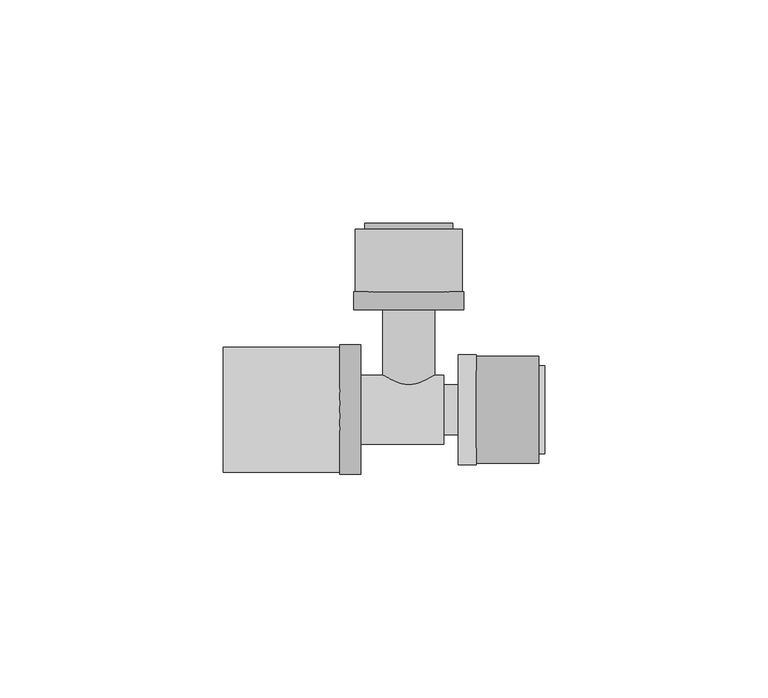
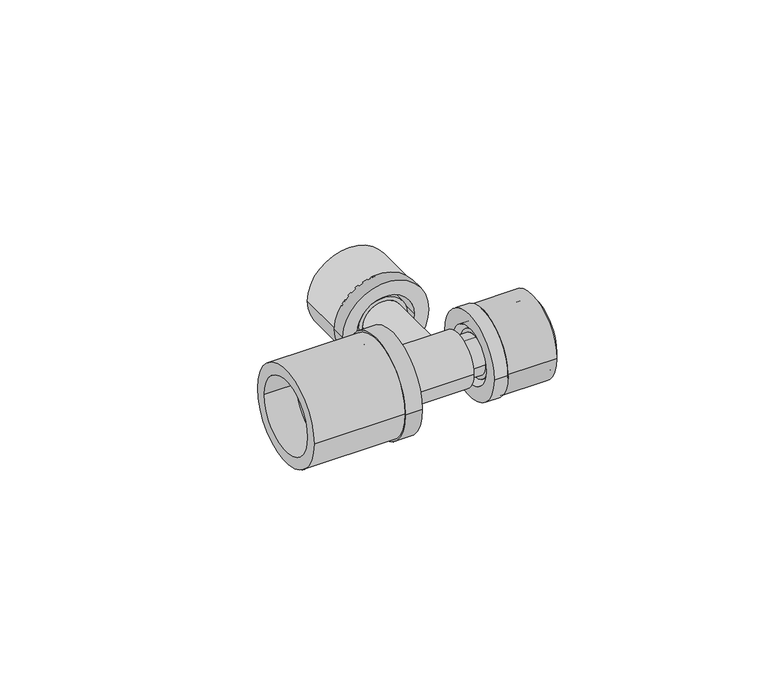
"""IFC4 building model written with IfcOpenShell, lengths in millimetres: pipe fitting geometry, FASTLOC_T-piece_EX+ : FSL T-Piece EX+ AT."""

from ifc_helpers import new_model, si_unit, point, frame, origin, origin_2d, place, context, project, spatial, polyline, circle_curve, trimmed, segment, composite_curve, outline, extrude, source, transform, mapped, element, save
from ifc_brep_helpers import plane_surface, cylinder_surface, revolved_surface, advanced_brep


def pipe_fitting_b316c006(model_context):
    return source(origin(), model_context, "Body", "SolidModel", [
        extrude(outline(composite_curve([segment(trimmed(circle_curve(origin_2d(), 12.0), [point((-12.0, 0.0))], [point((12.0, 0.0))], False, "CARTESIAN"), True, "CONTINUOUS"), segment(trimmed(circle_curve(origin_2d(), 12.0), [point((12.0, 0.0))], [point((-12.0, 0.0))], False, "CARTESIAN"), True, "CONTINUOUS")], self_intersect=False), holes=[composite_curve([segment(trimmed(circle_curve(origin_2d(), 8.85), [point((-8.85, 0.0))], [point((8.85, 0.0))], True, "CARTESIAN"), True, "CONTINUOUS"), segment(trimmed(circle_curve(origin_2d(), 8.85), [point((8.85, 0.0))], [point((-8.85, 0.0))], True, "CARTESIAN"), True, "CONTINUOUS")], self_intersect=False)]), frame((15.1, 0.0, 0.0), z_axis=(1.0, 0.0, 0.0), x_axis=(0.0, 1.0, 0.0)), (0.0, 0.0, 1.0), 14.0),
        advanced_brep(
        [(15.1, 12.35, 0.0), (15.1, -12.35, 0.0), (11.1, -12.35, 0.0), (11.1, 12.35, 0.0), (30.4, 9.85, 0.0), (30.4, -9.85, 0.0), (15.1, -9.85, 0.0), (15.1, 9.85, 0.0), (11.1, 8.15, 0.0), (11.1, -8.15, 0.0), (30.4, -8.15, 0.0), (30.4, 8.15, 0.0)],
        [
            (0, 1, circle_curve(frame((15.1, 0.0, 0.0), z_axis=(-1.0, 0.0, 0.0), x_axis=(0.0, -1.0, 0.0)), 12.35)),
            (1, 2),
            (2, 3, circle_curve(frame((11.1, 0.0, 0.0), z_axis=(1.0, 0.0, 0.0), x_axis=(0.0, -1.0, 0.0)), 12.35)),
            (3, 0),
            (4, 5, circle_curve(frame((30.4, 0.0, 0.0), z_axis=(-1.0, 0.0, 0.0), x_axis=(0.0, -1.0, 0.0)), 9.85)),
            (5, 6),
            (6, 7, circle_curve(frame((15.1, 0.0, 0.0), z_axis=(1.0, 0.0, 0.0), x_axis=(0.0, -1.0, 0.0)), 9.85)),
            (7, 4),
            (8, 9, circle_curve(frame((11.1, 0.0, 0.0), z_axis=(-1.0, 0.0, 0.0), x_axis=(0.0, -1.0, 0.0)), 8.15)),
            (9, 10),
            (10, 11, circle_curve(frame((30.4, 0.0, 0.0), z_axis=(1.0, 0.0, 0.0), x_axis=(0.0, -1.0, 0.0)), 8.15)),
            (11, 8),
            (1, 0, circle_curve(frame((15.1, 0.0, 0.0), z_axis=(-1.0, 0.0, 0.0), x_axis=(0.0, 1.0, 0.0)), 12.35)),
            (3, 2, circle_curve(frame((11.1, 0.0, 0.0), z_axis=(1.0, 0.0, 0.0), x_axis=(0.0, 1.0, 0.0)), 12.35)),
            (6, 7, circle_curve(frame((15.1, 0.0, 0.0), z_axis=(-1.0, 0.0, 0.0), x_axis=(0.0, 1.0, 0.0)), 9.85)),
            (5, 4, circle_curve(frame((30.4, 0.0, 0.0), z_axis=(-1.0, 0.0, 0.0), x_axis=(0.0, 1.0, 0.0)), 9.85)),
            (10, 11, circle_curve(frame((30.4, 0.0, 0.0), z_axis=(-1.0, 0.0, 0.0), x_axis=(0.0, 1.0, 0.0)), 8.15)),
            (9, 8, circle_curve(frame((11.1, 0.0, 0.0), z_axis=(-1.0, 0.0, 0.0), x_axis=(0.0, 1.0, 0.0)), 8.15)),
        ],
        [
            cylinder_surface(frame((11.1, 0.0, 0.0), z_axis=(1.0, 0.0, 0.0), x_axis=(0.0, -1.0, 0.0)), 12.35),
            cylinder_surface(frame((11.1, 0.0, 0.0), z_axis=(1.0, 0.0, 0.0), x_axis=(0.0, -1.0, 0.0)), 9.85),
            revolved_surface(polyline([(30.4, -8.15, 0.0), (11.1, -8.15, 0.0)]), (11.1, 0.0, 0.0), (1.0, 0.0, 0.0)),
            cylinder_surface(frame((11.1, 0.0, 0.0), z_axis=(1.0, 0.0, 0.0), x_axis=(0.0, 1.0, 0.0)), 12.35),
            plane_surface(frame((15.1, 0.0, 0.0), z_axis=(1.0, 0.0, 0.0), x_axis=(0.0, 1.0, 0.0))),
            cylinder_surface(frame((11.1, 0.0, 0.0), z_axis=(1.0, 0.0, 0.0), x_axis=(0.0, 1.0, 0.0)), 9.85),
            plane_surface(frame((30.4, 0.0, 0.0), z_axis=(1.0, 0.0, 0.0), x_axis=(0.0, 1.0, 0.0))),
            revolved_surface(polyline([(30.4, 8.15, 0.0), (11.1, 8.15, 0.0)]), (11.1, 0.0, 0.0), (1.0, 0.0, 0.0)),
            plane_surface(frame((11.1, 0.0, 0.0), z_axis=(-1.0, 0.0, 0.0), x_axis=(0.0, 1.0, 0.0))),
        ],
        [
            (0, [[1, 2, 3, 4]]),
            (1, [[5, 6, 7, 8]]),
            (2, [[9, 10, 11, 12]]),
            (3, [[13, -4, 14, -2]]),
            (4, [[-13, -1], [15, -7]]),
            (5, [[16, -8, -15, -6]]),
            (6, [[-16, -5], [17, -11]]),
            (7, [[18, -12, -17, -10]]),
            (8, [[-14, -3], [-18, -9]]),
        ],
    ),
        extrude(outline(composite_curve([segment(trimmed(circle_curve(origin_2d(), 14.0), [point((14.0, 0.0))], [point((-14.0, 0.0))], False, "CARTESIAN"), True, "CONTINUOUS"), segment(trimmed(circle_curve(origin_2d(), 14.0), [point((-14.0, 0.0))], [point((14.0, 0.0))], False, "CARTESIAN"), True, "CONTINUOUS")], self_intersect=False), holes=[composite_curve([segment(trimmed(circle_curve(origin_2d(), 10.7), [point((10.7, 0.0))], [point((-10.7, 0.0))], True, "CARTESIAN"), True, "CONTINUOUS"), segment(trimmed(circle_curve(origin_2d(), 10.7), [point((-10.7, 0.0))], [point((10.7, 0.0))], True, "CARTESIAN"), True, "CONTINUOUS")], self_intersect=False)]), frame((-41.5, 0.0, 0.0), z_axis=(1.0, 0.0, 0.0), x_axis=(0.0, 1.0, 0.0)), (0.0, 0.0, 1.0), 26.0),
        advanced_brep(
        [(-15.5, -14.5, 0.0), (-15.5, 14.5, 0.0), (-10.8, 14.5, 0.0), (-10.8, -14.5, 0.0), (-32.5, -11.85, 0.0), (-32.5, 11.85, 0.0), (-15.5, 11.85, 0.0), (-15.5, -11.85, 0.0), (-10.8, -10.15, 0.0), (-10.8, 10.15, 0.0), (-32.5, 10.15, 0.0), (-32.5, -10.15, 0.0)],
        [
            (0, 1, circle_curve(frame((-15.5, 0.0, 0.0), z_axis=(1.0, 0.0, 0.0), x_axis=(0.0, 1.0, 0.0)), 14.5)),
            (1, 2),
            (2, 3, circle_curve(frame((-10.8, 0.0, 0.0), z_axis=(-1.0, 0.0, 0.0), x_axis=(0.0, 1.0, 0.0)), 14.5)),
            (3, 0),
            (4, 5, circle_curve(frame((-32.5, 0.0, 0.0), z_axis=(1.0, 0.0, 0.0), x_axis=(0.0, 1.0, 0.0)), 11.85)),
            (5, 6),
            (6, 7, circle_curve(frame((-15.5, 0.0, 0.0), z_axis=(-1.0, 0.0, 0.0), x_axis=(0.0, 1.0, 0.0)), 11.85)),
            (7, 4),
            (8, 9, circle_curve(frame((-10.8, 0.0, 0.0), z_axis=(1.0, 0.0, 0.0), x_axis=(0.0, 1.0, 0.0)), 10.15)),
            (9, 10),
            (10, 11, circle_curve(frame((-32.5, 0.0, 0.0), z_axis=(-1.0, 0.0, 0.0), x_axis=(0.0, 1.0, 0.0)), 10.15)),
            (11, 8),
            (1, 0, circle_curve(frame((-15.5, 0.0, 0.0), z_axis=(1.0, 0.0, 0.0), x_axis=(0.0, -1.0, 0.0)), 14.5)),
            (3, 2, circle_curve(frame((-10.8, 0.0, 0.0), z_axis=(-1.0, 0.0, 0.0), x_axis=(0.0, -1.0, 0.0)), 14.5)),
            (6, 7, circle_curve(frame((-15.5, 0.0, 0.0), z_axis=(1.0, 0.0, 0.0), x_axis=(0.0, -1.0, 0.0)), 11.85)),
            (5, 4, circle_curve(frame((-32.5, 0.0, 0.0), z_axis=(1.0, 0.0, 0.0), x_axis=(0.0, -1.0, 0.0)), 11.85)),
            (10, 11, circle_curve(frame((-32.5, 0.0, 0.0), z_axis=(1.0, 0.0, 0.0), x_axis=(0.0, -1.0, 0.0)), 10.15)),
            (9, 8, circle_curve(frame((-10.8, 0.0, 0.0), z_axis=(1.0, 0.0, 0.0), x_axis=(0.0, -1.0, 0.0)), 10.15)),
        ],
        [
            cylinder_surface(frame((-10.8, 0.0, 0.0), z_axis=(-1.0, 0.0, 0.0), x_axis=(0.0, 1.0, 0.0)), 14.5),
            cylinder_surface(frame((-10.8, 0.0, 0.0), z_axis=(-1.0, 0.0, 0.0), x_axis=(0.0, 1.0, 0.0)), 11.85),
            revolved_surface(polyline([(-32.5, 10.15, 0.0), (-10.8, 10.15, 0.0)]), (-10.8, 0.0, 0.0), (-1.0, 0.0, 0.0)),
            cylinder_surface(frame((-10.8, 0.0, 0.0), z_axis=(-1.0, 0.0, 0.0), x_axis=(0.0, -1.0, 0.0)), 14.5),
            plane_surface(frame((-15.5, 0.0, 0.0), z_axis=(-1.0, 0.0, 0.0), x_axis=(0.0, -1.0, 0.0))),
            cylinder_surface(frame((-10.8, 0.0, 0.0), z_axis=(-1.0, 0.0, 0.0), x_axis=(0.0, -1.0, 0.0)), 11.85),
            plane_surface(frame((-32.5, 0.0, 0.0), z_axis=(-1.0, 0.0, 0.0), x_axis=(0.0, -1.0, 0.0))),
            revolved_surface(polyline([(-32.5, -10.15, 0.0), (-10.8, -10.15, 0.0)]), (-10.8, 0.0, 0.0), (-1.0, 0.0, 0.0)),
            plane_surface(frame((-10.8, 0.0, 0.0), z_axis=(1.0, 0.0, 0.0), x_axis=(0.0, -1.0, 0.0))),
        ],
        [
            (0, [[1, 2, 3, 4]]),
            (1, [[5, 6, 7, 8]]),
            (2, [[9, 10, 11, 12]]),
            (3, [[13, -4, 14, -2]]),
            (4, [[-13, -1], [15, -7]]),
            (5, [[16, -8, -15, -6]]),
            (6, [[-16, -5], [17, -11]]),
            (7, [[18, -12, -17, -10]]),
            (8, [[-14, -3], [-18, -9]]),
        ],
    ),
        extrude(outline(composite_curve([segment(trimmed(circle_curve(origin_2d(), 12.0), [point((0.0, 12.0))], [point((0.0, -12.0))], False, "CARTESIAN"), True, "CONTINUOUS"), segment(trimmed(circle_curve(origin_2d(), 12.0), [point((0.0, -12.0))], [point((0.0, 12.0))], False, "CARTESIAN"), True, "CONTINUOUS")], self_intersect=False), holes=[composite_curve([segment(trimmed(circle_curve(origin_2d(), 8.85), [point((0.0, 8.85))], [point((0.0, -8.85))], True, "CARTESIAN"), True, "CONTINUOUS"), segment(trimmed(circle_curve(origin_2d(), 8.85), [point((0.0, -8.85))], [point((0.0, 8.85))], True, "CARTESIAN"), True, "CONTINUOUS")], self_intersect=False)]), frame((0.0, 26.4, 0.0), z_axis=(0.0, 1.0, 0.0), x_axis=(0.0, 0.0, 1.0)), (0.0, 0.0, 1.0), 14.0),
        advanced_brep(
        [(-12.35, 26.4, 0.0), (12.35, 26.4, 0.0), (12.35, 22.4, 0.0), (-12.35, 22.4, 0.0), (-9.85, 41.7, 0.0), (9.85, 41.7, 0.0), (9.85, 26.4, 0.0), (-9.85, 26.4, 0.0), (-8.15, 22.4, 0.0), (8.15, 22.4, 0.0), (8.15, 41.7, 0.0), (-8.15, 41.7, 0.0)],
        [
            (0, 1, circle_curve(frame((0.0, 26.4, 0.0), z_axis=(0.0, -1.0, 0.0), x_axis=(1.0, 0.0, 0.0)), 12.35)),
            (1, 2),
            (2, 3, circle_curve(frame((0.0, 22.4, 0.0), z_axis=(0.0, 1.0, 0.0), x_axis=(1.0, 0.0, 0.0)), 12.35)),
            (3, 0),
            (4, 5, circle_curve(frame((0.0, 41.7, 0.0), z_axis=(0.0, -1.0, 0.0), x_axis=(1.0, 0.0, 0.0)), 9.85)),
            (5, 6),
            (6, 7, circle_curve(frame((0.0, 26.4, 0.0), z_axis=(0.0, 1.0, 0.0), x_axis=(1.0, 0.0, 0.0)), 9.85)),
            (7, 4),
            (8, 9, circle_curve(frame((0.0, 22.4, 0.0), z_axis=(0.0, -1.0, 0.0), x_axis=(1.0, 0.0, 0.0)), 8.15)),
            (9, 10),
            (10, 11, circle_curve(frame((0.0, 41.7, 0.0), z_axis=(0.0, 1.0, 0.0), x_axis=(1.0, 0.0, 0.0)), 8.15)),
            (11, 8),
            (1, 0, circle_curve(frame((0.0, 26.4, 0.0), z_axis=(0.0, -1.0, 0.0), x_axis=(-1.0, 0.0, 0.0)), 12.35)),
            (3, 2, circle_curve(frame((0.0, 22.4, 0.0), z_axis=(0.0, 1.0, 0.0), x_axis=(-1.0, 0.0, 0.0)), 12.35)),
            (6, 7, circle_curve(frame((0.0, 26.4, 0.0), z_axis=(0.0, -1.0, 0.0), x_axis=(-1.0, 0.0, 0.0)), 9.85)),
            (5, 4, circle_curve(frame((0.0, 41.7, 0.0), z_axis=(0.0, -1.0, 0.0), x_axis=(-1.0, 0.0, 0.0)), 9.85)),
            (10, 11, circle_curve(frame((0.0, 41.7, 0.0), z_axis=(0.0, -1.0, 0.0), x_axis=(-1.0, 0.0, 0.0)), 8.15)),
            (9, 8, circle_curve(frame((0.0, 22.4, 0.0), z_axis=(0.0, -1.0, 0.0), x_axis=(-1.0, 0.0, 0.0)), 8.15)),
        ],
        [
            cylinder_surface(frame((0.0, 22.4, 0.0), z_axis=(0.0, 1.0, 0.0), x_axis=(1.0, 0.0, 0.0)), 12.35),
            cylinder_surface(frame((0.0, 22.4, 0.0), z_axis=(0.0, 1.0, 0.0), x_axis=(1.0, 0.0, 0.0)), 9.85),
            revolved_surface(polyline([(8.15, 41.7, 0.0), (8.15, 22.4, 0.0)]), (0.0, 22.4, 0.0), (0.0, 1.0, 0.0)),
            cylinder_surface(frame((0.0, 22.4, 0.0), z_axis=(0.0, 1.0, 0.0), x_axis=(-1.0, 0.0, 0.0)), 12.35),
            plane_surface(frame((0.0, 26.4, 0.0), z_axis=(0.0, 1.0, 0.0), x_axis=(-1.0, 0.0, 0.0))),
            cylinder_surface(frame((0.0, 22.4, 0.0), z_axis=(0.0, 1.0, 0.0), x_axis=(-1.0, 0.0, 0.0)), 9.85),
            plane_surface(frame((0.0, 41.7, 0.0), z_axis=(0.0, 1.0, 0.0), x_axis=(-1.0, 0.0, 0.0))),
            revolved_surface(polyline([(-8.15, 41.7, 0.0), (-8.15, 22.4, 0.0)]), (0.0, 22.4, 0.0), (0.0, 1.0, 0.0)),
            plane_surface(frame((0.0, 22.4, 0.0), z_axis=(0.0, -1.0, 0.0), x_axis=(-1.0, 0.0, 0.0))),
        ],
        [
            (0, [[1, 2, 3, 4]]),
            (1, [[5, 6, 7, 8]]),
            (2, [[9, 10, 11, 12]]),
            (3, [[13, -4, 14, -2]]),
            (4, [[-13, -1], [15, -7]]),
            (5, [[16, -8, -15, -6]]),
            (6, [[-16, -5], [17, -11]]),
            (7, [[18, -12, -17, -10]]),
            (8, [[-14, -3], [-18, -9]]),
        ],
    ),
        advanced_brep(
        [(12.39, 5.6, 0.0), (12.39, -5.6, 0.0), (7.85, -5.6, 0.0), (7.85, 5.6, 0.0), (15.1, 6.7, 0.0), (15.1, -6.7, 0.0), (12.39, -6.7, 0.0), (12.39, 6.7, 0.0), (30.1, 5.6, 0.0), (30.1, -5.6, 0.0), (15.1, -5.6, 0.0), (15.1, 5.6, 0.0), (6.0, 3.75, 0.0), (6.0, -3.75, 0.0), (30.1, -3.75, 0.0), (30.1, 3.75, 0.0), (-32.9, 5.75, 0.0), (-32.9, -5.75, 0.0), (6.0, -5.75, 0.0), (6.0, 5.75, 0.0), (-15.5, 7.75, 0.0), (-15.5, -7.75, 0.0), (-32.9, -7.75, 0.0), (-32.9, 7.75, 0.0), (-12.83, 8.8, 0.0), (-12.83, -8.8, 0.0), (-15.5, -8.8, 0.0), (-15.5, 8.8, 0.0), (7.85, 7.75, 0.0), (7.85, -7.75, 0.0), (-12.83, -7.75, 0.0), (-12.83, 7.75, 0.0)],
        [
            (0, 1, circle_curve(frame((12.39, 0.0, 0.0), z_axis=(-1.0, 0.0, 0.0), x_axis=(0.0, -1.0, 0.0)), 5.6)),
            (1, 2),
            (2, 3, circle_curve(frame((7.85, 0.0, 0.0), z_axis=(1.0, 0.0, 0.0), x_axis=(0.0, -1.0, 0.0)), 5.6)),
            (3, 0),
            (4, 5, circle_curve(frame((15.1, 0.0, 0.0), z_axis=(-1.0, 0.0, 0.0), x_axis=(0.0, -1.0, 0.0)), 6.7)),
            (5, 6),
            (6, 7, circle_curve(frame((12.39, 0.0, 0.0), z_axis=(1.0, 0.0, 0.0), x_axis=(0.0, -1.0, 0.0)), 6.7)),
            (7, 4),
            (8, 9, circle_curve(frame((30.1, 0.0, 0.0), z_axis=(-1.0, 0.0, 0.0), x_axis=(0.0, -1.0, 0.0)), 5.6)),
            (9, 10),
            (10, 11, circle_curve(frame((15.1, 0.0, 0.0), z_axis=(1.0, 0.0, 0.0), x_axis=(0.0, -1.0, 0.0)), 5.6)),
            (11, 8),
            (12, 13, circle_curve(frame((6.0, 0.0, 0.0), z_axis=(-1.0, 0.0, 0.0), x_axis=(0.0, -1.0, 0.0)), 3.75)),
            (13, 14),
            (14, 15, circle_curve(frame((30.1, 0.0, 0.0), z_axis=(1.0, 0.0, 0.0), x_axis=(0.0, -1.0, 0.0)), 3.75)),
            (15, 12),
            (16, 17, circle_curve(frame((-32.9, 0.0, 0.0), z_axis=(-1.0, 0.0, 0.0), x_axis=(0.0, -1.0, 0.0)), 5.75)),
            (17, 18),
            (18, 19, circle_curve(frame((6.0, 0.0, 0.0), z_axis=(1.0, 0.0, 0.0), x_axis=(0.0, -1.0, 0.0)), 5.75)),
            (19, 16),
            (20, 21, circle_curve(frame((-15.5, 0.0, 0.0), z_axis=(-1.0, 0.0, 0.0), x_axis=(0.0, -1.0, 0.0)), 7.75)),
            (21, 22),
            (22, 23, circle_curve(frame((-32.9, 0.0, 0.0), z_axis=(1.0, 0.0, 0.0), x_axis=(0.0, -1.0, 0.0)), 7.75)),
            (23, 20),
            (24, 25, circle_curve(frame((-12.83, 0.0, 0.0), z_axis=(-1.0, 0.0, 0.0), x_axis=(0.0, -1.0, 0.0)), 8.8)),
            (25, 26),
            (26, 27, circle_curve(frame((-15.5, 0.0, 0.0), z_axis=(1.0, 0.0, 0.0), x_axis=(0.0, -1.0, 0.0)), 8.8)),
            (27, 24),
            (28, 29, circle_curve(frame((7.85, 0.0, 0.0), z_axis=(-1.0, 0.0, 0.0), x_axis=(0.0, -1.0, 0.0)), 7.75)),
            (29, 30),
            (30, 31, circle_curve(frame((-12.83, 0.0, 0.0), z_axis=(1.0, 0.0, 0.0), x_axis=(0.0, -1.0, 0.0)), 7.75)),
            (31, 28),
            (28, 29, circle_curve(frame((7.85, 0.0, 0.0), z_axis=(1.0, 0.0, 0.0), x_axis=(0.0, 1.0, 0.0)), 7.75)),
            (2, 3, circle_curve(frame((7.85, 0.0, 0.0), z_axis=(-1.0, 0.0, 0.0), x_axis=(0.0, 1.0, 0.0)), 5.6)),
            (1, 0, circle_curve(frame((12.39, 0.0, 0.0), z_axis=(-1.0, 0.0, 0.0), x_axis=(0.0, 1.0, 0.0)), 5.6)),
            (6, 7, circle_curve(frame((12.39, 0.0, 0.0), z_axis=(-1.0, 0.0, 0.0), x_axis=(0.0, 1.0, 0.0)), 6.7)),
            (5, 4, circle_curve(frame((15.1, 0.0, 0.0), z_axis=(-1.0, 0.0, 0.0), x_axis=(0.0, 1.0, 0.0)), 6.7)),
            (10, 11, circle_curve(frame((15.1, 0.0, 0.0), z_axis=(-1.0, 0.0, 0.0), x_axis=(0.0, 1.0, 0.0)), 5.6)),
            (9, 8, circle_curve(frame((30.1, 0.0, 0.0), z_axis=(-1.0, 0.0, 0.0), x_axis=(0.0, 1.0, 0.0)), 5.6)),
            (14, 15, circle_curve(frame((30.1, 0.0, 0.0), z_axis=(-1.0, 0.0, 0.0), x_axis=(0.0, 1.0, 0.0)), 3.75)),
            (13, 12, circle_curve(frame((6.0, 0.0, 0.0), z_axis=(-1.0, 0.0, 0.0), x_axis=(0.0, 1.0, 0.0)), 3.75)),
            (18, 19, circle_curve(frame((6.0, 0.0, 0.0), z_axis=(-1.0, 0.0, 0.0), x_axis=(0.0, 1.0, 0.0)), 5.75)),
            (17, 16, circle_curve(frame((-32.9, 0.0, 0.0), z_axis=(-1.0, 0.0, 0.0), x_axis=(0.0, 1.0, 0.0)), 5.75)),
            (22, 23, circle_curve(frame((-32.9, 0.0, 0.0), z_axis=(-1.0, 0.0, 0.0), x_axis=(0.0, 1.0, 0.0)), 7.75)),
            (21, 20, circle_curve(frame((-15.5, 0.0, 0.0), z_axis=(-1.0, 0.0, 0.0), x_axis=(0.0, 1.0, 0.0)), 7.75)),
            (26, 27, circle_curve(frame((-15.5, 0.0, 0.0), z_axis=(-1.0, 0.0, 0.0), x_axis=(0.0, 1.0, 0.0)), 8.8)),
            (25, 24, circle_curve(frame((-12.83, 0.0, 0.0), z_axis=(-1.0, 0.0, 0.0), x_axis=(0.0, 1.0, 0.0)), 8.8)),
            (30, 31, circle_curve(frame((-12.83, 0.0, 0.0), z_axis=(-1.0, 0.0, 0.0), x_axis=(0.0, 1.0, 0.0)), 7.75)),
        ],
        [
            cylinder_surface(frame((0.0, 0.0, 0.0), z_axis=(1.0, 0.0, 0.0), x_axis=(0.0, -1.0, 0.0)), 5.6),
            cylinder_surface(frame((0.0, 0.0, 0.0), z_axis=(1.0, 0.0, 0.0), x_axis=(0.0, -1.0, 0.0)), 6.7),
            revolved_surface(polyline([(30.1, -3.75, 0.0), (6.0, -3.75, 0.0)]), (0.0, 0.0, 0.0), (1.0, 0.0, 0.0)),
            revolved_surface(polyline([(6.0, -5.75, 0.0), (-32.9, -5.75, 0.0)]), (0.0, 0.0, 0.0), (1.0, 0.0, 0.0)),
            cylinder_surface(frame((0.0, 0.0, 0.0), z_axis=(1.0, 0.0, 0.0), x_axis=(0.0, -1.0, 0.0)), 7.75),
            cylinder_surface(frame((0.0, 0.0, 0.0), z_axis=(1.0, 0.0, 0.0), x_axis=(0.0, -1.0, 0.0)), 8.8),
            plane_surface(frame((7.85, 0.0, 0.0), z_axis=(1.0, 0.0, 0.0), x_axis=(0.0, 1.0, 0.0))),
            cylinder_surface(frame((0.0, 0.0, 0.0), z_axis=(1.0, 0.0, 0.0), x_axis=(0.0, 1.0, 0.0)), 5.6),
            plane_surface(frame((12.39, 0.0, 0.0), z_axis=(-1.0, 0.0, 0.0), x_axis=(0.0, 1.0, 0.0))),
            cylinder_surface(frame((0.0, 0.0, 0.0), z_axis=(1.0, 0.0, 0.0), x_axis=(0.0, 1.0, 0.0)), 6.7),
            plane_surface(frame((15.1, 0.0, 0.0), z_axis=(1.0, 0.0, 0.0), x_axis=(0.0, 1.0, 0.0))),
            plane_surface(frame((30.1, 0.0, 0.0), z_axis=(1.0, 0.0, 0.0), x_axis=(0.0, 1.0, 0.0))),
            revolved_surface(polyline([(30.1, 3.75, 0.0), (6.0, 3.75, 0.0)]), (0.0, 0.0, 0.0), (1.0, 0.0, 0.0)),
            plane_surface(frame((6.0, 0.0, 0.0), z_axis=(-1.0, 0.0, 0.0), x_axis=(0.0, 1.0, 0.0))),
            revolved_surface(polyline([(6.0, 5.75, 0.0), (-32.9, 5.75, 0.0)]), (0.0, 0.0, 0.0), (1.0, 0.0, 0.0)),
            plane_surface(frame((-32.9, 0.0, 0.0), z_axis=(-1.0, 0.0, 0.0), x_axis=(0.0, 1.0, 0.0))),
            cylinder_surface(frame((0.0, 0.0, 0.0), z_axis=(1.0, 0.0, 0.0), x_axis=(0.0, 1.0, 0.0)), 7.75),
            plane_surface(frame((-15.5, 0.0, 0.0), z_axis=(-1.0, 0.0, 0.0), x_axis=(0.0, 1.0, 0.0))),
            cylinder_surface(frame((0.0, 0.0, 0.0), z_axis=(1.0, 0.0, 0.0), x_axis=(0.0, 1.0, 0.0)), 8.8),
            plane_surface(frame((-12.83, 0.0, 0.0), z_axis=(1.0, 0.0, 0.0), x_axis=(0.0, 1.0, 0.0))),
        ],
        [
            (0, [[1, 2, 3, 4]]),
            (1, [[5, 6, 7, 8]]),
            (0, [[9, 10, 11, 12]]),
            (2, [[13, 14, 15, 16]]),
            (3, [[17, 18, 19, 20]]),
            (4, [[21, 22, 23, 24]]),
            (5, [[25, 26, 27, 28]]),
            (4, [[29, 30, 31, 32]]),
            (6, [[33, -29], [34, -3]]),
            (7, [[35, -4, -34, -2]]),
            (8, [[36, -7], [-35, -1]]),
            (9, [[37, -8, -36, -6]]),
            (10, [[-37, -5], [38, -11]]),
            (7, [[39, -12, -38, -10]]),
            (11, [[-39, -9], [40, -15]]),
            (12, [[41, -16, -40, -14]]),
            (13, [[42, -19], [-41, -13]]),
            (14, [[43, -20, -42, -18]]),
            (15, [[44, -23], [-43, -17]]),
            (16, [[45, -24, -44, -22]]),
            (17, [[46, -27], [-45, -21]]),
            (18, [[47, -28, -46, -26]]),
            (19, [[-47, -25], [48, -31]]),
            (16, [[-33, -32, -48, -30]]),
        ],
    ),
        advanced_brep(
        [(3.95, 41.4, 0.0), (-3.95, 41.4, 0.0), (-3.95, 0.0, 0.0), (3.95, 0.0, 0.0), (5.8, 0.0, 0.0), (-5.8, 0.0, 0.0), (-5.8, 23.69, 0.0), (5.8, 23.69, 0.0), (6.9, 23.69, 0.0), (-6.9, 23.69, 0.0), (-6.9, 26.4, 0.0), (6.9, 26.4, 0.0), (5.8, 26.4, 0.0), (-5.8, 26.4, 0.0), (-5.8, 41.4, 0.0), (5.8, 41.4, 0.0)],
        [
            (0, 1, circle_curve(frame((0.0, 41.4, 0.0), z_axis=(0.0, 1.0, 0.0), x_axis=(-1.0, 0.0, 0.0)), 3.95)),
            (1, 2),
            (2, 3, circle_curve(frame((0.0, 0.0, 0.0), z_axis=(0.0, -1.0, 0.0), x_axis=(-1.0, 0.0, 0.0)), 3.95)),
            (3, 0),
            (4, 5, circle_curve(frame((0.0, 0.0, 0.0), z_axis=(0.0, 1.0, 0.0), x_axis=(-1.0, 0.0, 0.0)), 5.8)),
            (5, 6),
            (6, 7, circle_curve(frame((0.0, 23.69, 0.0), z_axis=(0.0, -1.0, 0.0), x_axis=(-1.0, 0.0, 0.0)), 5.8)),
            (7, 4),
            (8, 9, circle_curve(frame((0.0, 23.69, 0.0), z_axis=(0.0, 1.0, 0.0), x_axis=(-1.0, 0.0, 0.0)), 6.9)),
            (9, 10),
            (10, 11, circle_curve(frame((0.0, 26.4, 0.0), z_axis=(0.0, -1.0, 0.0), x_axis=(-1.0, 0.0, 0.0)), 6.9)),
            (11, 8),
            (12, 13, circle_curve(frame((0.0, 26.4, 0.0), z_axis=(0.0, 1.0, 0.0), x_axis=(-1.0, 0.0, 0.0)), 5.8)),
            (13, 14),
            (14, 15, circle_curve(frame((0.0, 41.4, 0.0), z_axis=(0.0, -1.0, 0.0), x_axis=(-1.0, 0.0, 0.0)), 5.8)),
            (15, 12),
            (1, 0, circle_curve(frame((0.0, 41.4, 0.0), z_axis=(0.0, 1.0, 0.0), x_axis=(1.0, 0.0, 0.0)), 3.95)),
            (3, 2, circle_curve(frame((0.0, 0.0, 0.0), z_axis=(0.0, -1.0, 0.0), x_axis=(1.0, 0.0, 0.0)), 3.95)),
            (4, 5, circle_curve(frame((0.0, 0.0, 0.0), z_axis=(0.0, -1.0, 0.0), x_axis=(1.0, 0.0, 0.0)), 5.8)),
            (7, 6, circle_curve(frame((0.0, 23.69, 0.0), z_axis=(0.0, -1.0, 0.0), x_axis=(1.0, 0.0, 0.0)), 5.8)),
            (8, 9, circle_curve(frame((0.0, 23.69, 0.0), z_axis=(0.0, -1.0, 0.0), x_axis=(1.0, 0.0, 0.0)), 6.9)),
            (11, 10, circle_curve(frame((0.0, 26.4, 0.0), z_axis=(0.0, -1.0, 0.0), x_axis=(1.0, 0.0, 0.0)), 6.9)),
            (12, 13, circle_curve(frame((0.0, 26.4, 0.0), z_axis=(0.0, -1.0, 0.0), x_axis=(1.0, 0.0, 0.0)), 5.8)),
            (15, 14, circle_curve(frame((0.0, 41.4, 0.0), z_axis=(0.0, -1.0, 0.0), x_axis=(1.0, 0.0, 0.0)), 5.8)),
        ],
        [
            revolved_surface(polyline([(-3.95, 0.0, 0.0), (-3.95, 41.4, 0.0)]), (0.0, 0.0, 0.0), (0.0, -1.0, 0.0)),
            cylinder_surface(frame((0.0, 0.0, 0.0), z_axis=(0.0, -1.0, 0.0), x_axis=(-1.0, 0.0, 0.0)), 5.8),
            cylinder_surface(frame((0.0, 0.0, 0.0), z_axis=(0.0, -1.0, 0.0), x_axis=(-1.0, 0.0, 0.0)), 6.9),
            revolved_surface(polyline([(3.95, 0.0, 0.0), (3.95, 41.4, 0.0)]), (0.0, 0.0, 0.0), (0.0, -1.0, 0.0)),
            plane_surface(frame((0.0, 0.0, 0.0), z_axis=(0.0, -1.0, 0.0), x_axis=(1.0, 0.0, 0.0))),
            cylinder_surface(frame((0.0, 0.0, 0.0), z_axis=(0.0, -1.0, 0.0), x_axis=(1.0, 0.0, 0.0)), 5.8),
            plane_surface(frame((0.0, 23.69, 0.0), z_axis=(0.0, -1.0, 0.0), x_axis=(1.0, 0.0, 0.0))),
            cylinder_surface(frame((0.0, 0.0, 0.0), z_axis=(0.0, -1.0, 0.0), x_axis=(1.0, 0.0, 0.0)), 6.9),
            plane_surface(frame((0.0, 26.4, 0.0), z_axis=(0.0, 1.0, 0.0), x_axis=(1.0, 0.0, 0.0))),
            plane_surface(frame((0.0, 41.4, 0.0), z_axis=(0.0, 1.0, 0.0), x_axis=(1.0, 0.0, 0.0))),
        ],
        [
            (0, [[1, 2, 3, 4]]),
            (1, [[5, 6, 7, 8]]),
            (2, [[9, 10, 11, 12]]),
            (1, [[13, 14, 15, 16]]),
            (3, [[17, -4, 18, -2]]),
            (4, [[19, -5], [-18, -3]]),
            (5, [[-19, -8, 20, -6]]),
            (6, [[21, -9], [-20, -7]]),
            (7, [[-21, -12, 22, -10]]),
            (8, [[-22, -11], [23, -13]]),
            (5, [[-23, -16, 24, -14]]),
            (9, [[-24, -15], [-17, -1]]),
        ],
    ),
    ])


if __name__ == "__main__":
    model = new_model("IFC4")
    model_context = context("Model", 3, world=origin())
    ifc_project = project(units=[si_unit("LENGTHUNIT", "METRE", prefix="MILLI")], contexts=[model_context])
    site = spatial("IfcSite", under=ifc_project)
    building = spatial("IfcBuilding", under=site)
    placement = place(None, origin())
    pipe_fitting_shape = pipe_fitting_b316c006(model_context)
    element("IfcPipeFitting", 1, ObjectType="FASTLOC_T-piece_EX+ : FSL T-Piece EX+ AT", at=placement, inside=building, context=model_context, shape_type="MappedRepresentation", body=[
        mapped(pipe_fitting_shape, transform((0.0, 0.0, 0.0), x_axis=(1.0, 0.0, 0.0), y_axis=(0.0, 1.0, 0.0), z_axis=(0.0, 0.0, 1.0))),
    ])
    save(model, "model.ifc")
